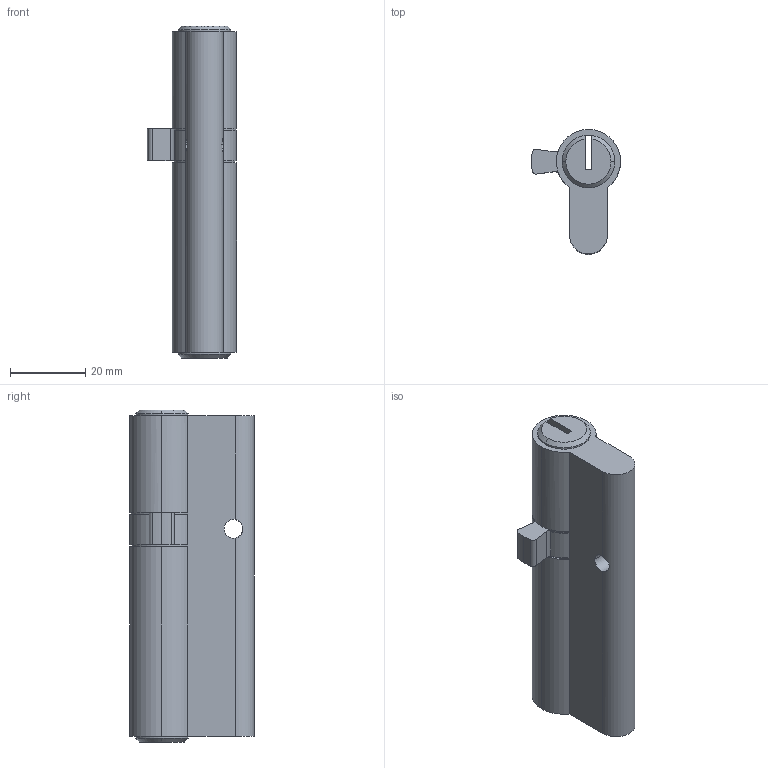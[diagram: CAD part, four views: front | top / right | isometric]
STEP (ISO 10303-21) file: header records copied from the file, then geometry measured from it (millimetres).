
FILE_DESCRIPTION (( 'STEP AP214' ), '1' );
FILE_NAME ('TPL-H-EU-520-R 29Oct2024.STEP', '2024-10-29T22:27:46', ( '' ), ( '' ), 'SwSTEP 2.0', 'SolidWorks 2023', '' );
FILE_SCHEMA (( 'AUTOMOTIVE_DESIGN' ));
Length unit declared in the file: millimetre
Products named in the file (1): TPL-H-EU-520-R 29Oct2024
Bounding box: 23.6 x 33 x 88 mm (x, y, z)
Volume: 31535.1 mm3; surface area: 10211.6 mm2
Topology: 1 solids, 1 shells, 52 faces, 144 edges, 90 vertices
Faces by surface type: cylinder 30, plane 16, cone 6
Entity records: 1775 total; most frequent: CARTESIAN_POINT 363, DIRECTION 314, ORIENTED_EDGE 288, EDGE_CURVE 144, AXIS2_PLACEMENT_3D 125, VERTEX_POINT 90, CIRCLE 72, VECTOR 64
